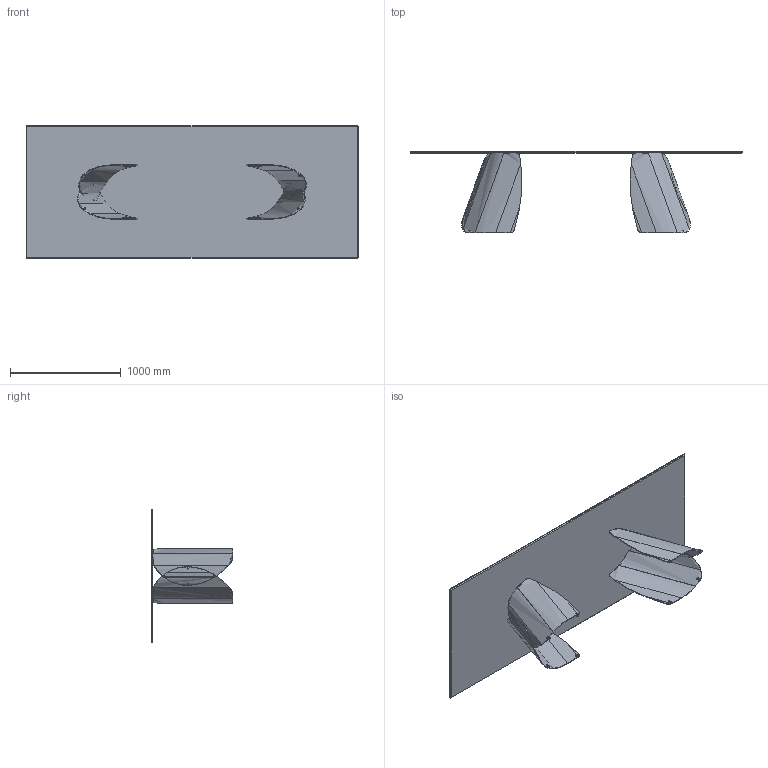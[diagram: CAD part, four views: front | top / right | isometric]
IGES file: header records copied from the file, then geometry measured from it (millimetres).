
Start section: SolidWorks IGES file using analytic representation for surfaces
Global section: file name: Y:\eforma\TECNICO\SOLIDWORKS\E-FORMA\1-TAVOLI\PERLA\02 parts\PA24C_Perla 300x120_Ceramic Rectangular.IGS; native system: SolidWorks 2022; preprocessor: SolidWorks 2022; author: eforma.tech; date: 240801.145333; units: millimetre
Bounding box: 3000 x 737.5 x 1200 mm (x, y, z)
Volume: 67310735.3 mm3; surface area: 17892532.7 mm2
Topology: 34 solids, 34 shells, 490 faces, 1090 edges, 668 vertices
Faces by surface type: revolution 244, bspline 130, plane 116
